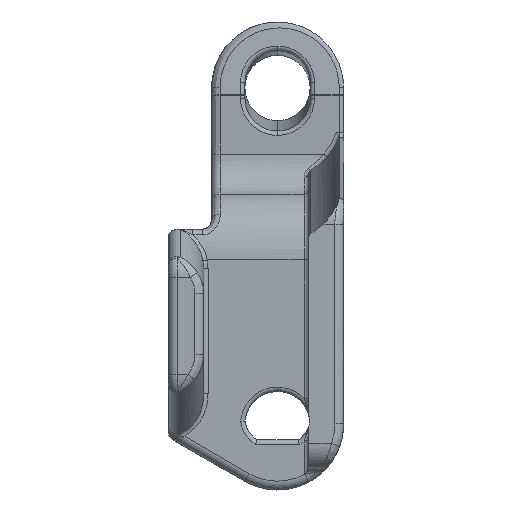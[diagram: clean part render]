
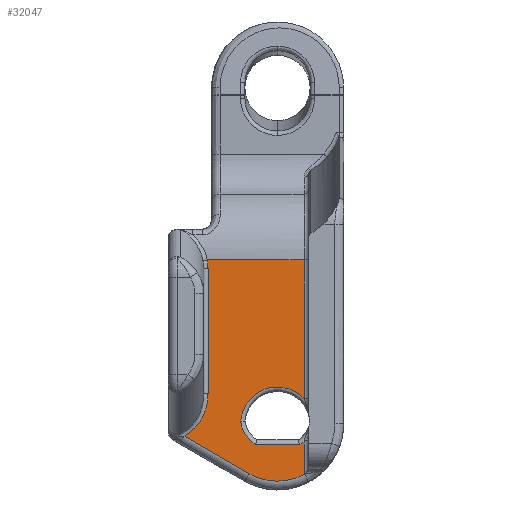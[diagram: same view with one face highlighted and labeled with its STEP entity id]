
A CAD part, left-side view. The second image highlights one B-rep face of the part: STEP entity #32047.
In plain terms, the highlighted planar face has unit normal (-1, 0, 0).
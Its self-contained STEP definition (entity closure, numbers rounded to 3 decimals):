
#7418=DIRECTION('',(0.,-1.,0.));
#7419=VECTOR('',#7418,10.987);
#7420=CARTESIAN_POINT('',(-21.45,7.967,
-0.45));
#7421=LINE('',#7420,#7419);
#7501=DIRECTION('',(0.,0.866,0.5));
#7502=VECTOR('',#7501,8.496);
#7503=CARTESIAN_POINT('',(-21.45,3.25,-24.679));
#7504=LINE('',#7503,#7502);
#7508=CARTESIAN_POINT('',(-21.45,10.608,
-20.431));
#7509=CARTESIAN_POINT('',(-21.45,10.494,
-20.375));
#7510=CARTESIAN_POINT('',(-21.45,10.271,
-20.252));
#7511=CARTESIAN_POINT('',(-21.45,9.947,
-20.033));
#7512=CARTESIAN_POINT('',(-21.45,9.634,
-19.78));
#7513=CARTESIAN_POINT('',(-21.45,9.337,
-19.492));
#7514=CARTESIAN_POINT('',(-21.45,9.057,
-19.17));
#7515=CARTESIAN_POINT('',(-21.45,8.8,
-18.815));
#7516=CARTESIAN_POINT('',(-21.45,8.568,
-18.43));
#7517=CARTESIAN_POINT('',(-21.45,8.364,
-18.016));
#7518=CARTESIAN_POINT('',(-21.45,8.192,
-17.577));
#7519=CARTESIAN_POINT('',(-21.45,8.055,
-17.116));
#7520=CARTESIAN_POINT('',(-21.45,7.954,
-16.638));
#7521=CARTESIAN_POINT('',(-21.45,7.894,
-16.149));
#7522=CARTESIAN_POINT('',(-21.45,7.88,
-15.821));
#7523=CARTESIAN_POINT('',(-21.45,7.88,-15.655));
#7528=DIRECTION('',(0.,0.,1.));
#7529=VECTOR('',#7528,14.266);
#7530=CARTESIAN_POINT('',(-21.45,7.88,-15.655));
#7531=LINE('',#7530,#7529);
#7535=CARTESIAN_POINT('',(-21.45,7.88,-1.389));
#7536=CARTESIAN_POINT('',(-21.45,7.88,
-1.328));
#7537=CARTESIAN_POINT('',(-21.45,7.882,
-1.197));
#7538=CARTESIAN_POINT('',(-21.45,7.895,
-0.975));
#7539=CARTESIAN_POINT('',(-21.45,7.921,
-0.727));
#7540=CARTESIAN_POINT('',(-21.45,7.949,
-0.545));
#7541=CARTESIAN_POINT('',(-21.45,7.967,
-0.45));
#7546=DIRECTION('',(0.,0.,-1.));
#7547=VECTOR('',#7546,15.71);
#7548=CARTESIAN_POINT('',(-21.45,-3.02,-0.45));
#7549=LINE('',#7548,#7547);
#7553=CARTESIAN_POINT('',(-21.45,0.,-19.05));
#7554=DIRECTION('',(-1.,0.,0.));
#7555=DIRECTION('',(0.,-0.722,0.691));
#7556=AXIS2_PLACEMENT_3D('',#7553,#7554,#7555);
#7561=CARTESIAN_POINT('',(-21.45,0.686,-18.38));
#7562=DIRECTION('',(-1.,0.,0.));
#7563=DIRECTION('',(0.,0.995,-0.102));
#7564=AXIS2_PLACEMENT_3D('',#7561,#7562,#7563);
#7569=DIRECTION('',(0.,-1.,0.));
#7570=VECTOR('',#7569,5.011);
#7571=CARTESIAN_POINT('',(-21.45,2.506,-21.37));
#7572=LINE('',#7571,#7570);
#7576=CARTESIAN_POINT('',(-21.45,-0.686,-18.38));
#7577=DIRECTION('',(-1.,0.,0.));
#7578=DIRECTION('',(0.,-0.52,-0.854));
#7579=AXIS2_PLACEMENT_3D('',#7576,#7577,#7578);
#7584=DIRECTION('',(0.,0.,-1.));
#7585=VECTOR('',#7584,3.781);
#7586=CARTESIAN_POINT('',(-21.45,-3.02,
-20.989));
#7587=LINE('',#7586,#7585);
#7591=CARTESIAN_POINT('',(-21.45,0.,-19.05));
#7592=DIRECTION('',(1.,0.,0.));
#7593=DIRECTION('',(0.,-0.475,-0.88));
#7594=AXIS2_PLACEMENT_3D('',#7591,#7592,#7593);
#7677=DIRECTION('',(0.,-1.,0.));
#7678=VECTOR('',#7677,0.067);
#7679=CARTESIAN_POINT('',(-21.45,-3.02,-24.77));
#7680=LINE('',#7679,#7678);
#7810=CARTESIAN_POINT('',(-21.45,-2.506,-21.37));
#7827=CARTESIAN_POINT('',(-21.45,2.506,-21.37));
#7871=CARTESIAN_POINT('',(-21.45,4.168,-18.736));
#24304=VERTEX_POINT('',#7827);
#24305=VERTEX_POINT('',#7871);
#24326=CARTESIAN_POINT('',(-21.45,3.25,-24.679));
#24327=CARTESIAN_POINT('',(-21.45,10.608,
-20.431));
#24328=VERTEX_POINT('',#24326);
#24329=VERTEX_POINT('',#24327);
#26736=VERTEX_POINT('',#7810);
#26793=VERTEX_POINT('',#7535);
#26794=VERTEX_POINT('',#7541);
#26797=CARTESIAN_POINT('',(-21.45,7.88,-15.655));
#26798=VERTEX_POINT('',#26797);
#26799=CARTESIAN_POINT('',(-21.45,-3.02,-0.45));
#26800=VERTEX_POINT('',#26799);
#26829=CARTESIAN_POINT('',(-21.45,-3.087,-24.77));
#26830=VERTEX_POINT('',#26829);
#26951=CARTESIAN_POINT('',(-21.45,-3.02,-16.16));
#26952=VERTEX_POINT('',#26951);
#26962=CARTESIAN_POINT('',(-21.45,-3.02,-24.77));
#26963=VERTEX_POINT('',#26962);
#26990=CARTESIAN_POINT('',(-21.45,-3.02,
-20.989));
#26991=VERTEX_POINT('',#26990);
#32016=CARTESIAN_POINT('',(-21.45,-7.5,-3.));
#32017=DIRECTION('',(1.,0.,0.));
#32018=DIRECTION('',(0.,0.,-1.));
#32019=AXIS2_PLACEMENT_3D('',#32016,#32017,#32018);
#32020=PLANE('',#32019);
#32022=ORIENTED_EDGE('',*,*,#32021,.T.);
#32024=ORIENTED_EDGE('',*,*,#32023,.T.);
#32026=ORIENTED_EDGE('',*,*,#32025,.T.);
#32028=ORIENTED_EDGE('',*,*,#32027,.T.);
#32029=ORIENTED_EDGE('',*,*,#32005,.T.);
#32030=ORIENTED_EDGE('',*,*,#31010,.T.);
#32032=ORIENTED_EDGE('',*,*,#32031,.T.);
#32034=ORIENTED_EDGE('',*,*,#32033,.T.);
#32036=ORIENTED_EDGE('',*,*,#32035,.T.);
#32038=ORIENTED_EDGE('',*,*,#32037,.T.);
#32040=ORIENTED_EDGE('',*,*,#32039,.T.);
#32042=ORIENTED_EDGE('',*,*,#32041,.T.);
#32044=ORIENTED_EDGE('',*,*,#32043,.T.);
#32045=EDGE_LOOP('',(#32022,#32024,#32026,#32028,#32029,#32030,#32032,#32034,
#32036,#32038,#32040,#32042,#32044));
#32046=FACE_OUTER_BOUND('',#32045,.F.);
#7524=B_SPLINE_CURVE_WITH_KNOTS('',3,(#7508,#7509,#7510,#7511,#7512,#7513,#7514,
#7515,#7516,#7517,#7518,#7519,#7520,#7521,#7522,#7523),.UNSPECIFIED.,.F.,.F.,(4,
1,1,1,1,1,1,1,1,1,1,1,1,4),(0.,0.077,0.154,
0.231,0.308,0.385,0.462,
0.538,0.615,0.692,0.769,
0.846,0.923,1.),.UNSPECIFIED.);
#7542=B_SPLINE_CURVE_WITH_KNOTS('',3,(#7535,#7536,#7537,#7538,#7539,#7540,
#7541),.UNSPECIFIED.,.F.,.F.,(4,1,1,1,4),(0.,0.25,0.5,0.75,1.),
.UNSPECIFIED.);
#7557=CIRCLE('',#7556,4.18);
#7565=CIRCLE('',#7564,3.5);
#7580=CIRCLE('',#7579,3.5);
#7595=CIRCLE('',#7594,6.5);
#31010=EDGE_CURVE('',#26800,#26952,#7549,.T.);
#32005=EDGE_CURVE('',#26794,#26800,#7421,.T.);
#32021=EDGE_CURVE('',#24328,#24329,#7504,.T.);
#32023=EDGE_CURVE('',#24329,#26798,#7524,.T.);
#32025=EDGE_CURVE('',#26798,#26793,#7531,.T.);
#32027=EDGE_CURVE('',#26793,#26794,#7542,.T.);
#32031=EDGE_CURVE('',#26952,#24305,#7557,.T.);
#32033=EDGE_CURVE('',#24305,#24304,#7565,.T.);
#32035=EDGE_CURVE('',#24304,#26736,#7572,.T.);
#32037=EDGE_CURVE('',#26736,#26991,#7580,.T.);
#32039=EDGE_CURVE('',#26991,#26963,#7587,.T.);
#32041=EDGE_CURVE('',#26963,#26830,#7680,.T.);
#32043=EDGE_CURVE('',#26830,#24328,#7595,.T.);
#32047=ADVANCED_FACE('',(#32046),#32020,.F.);
